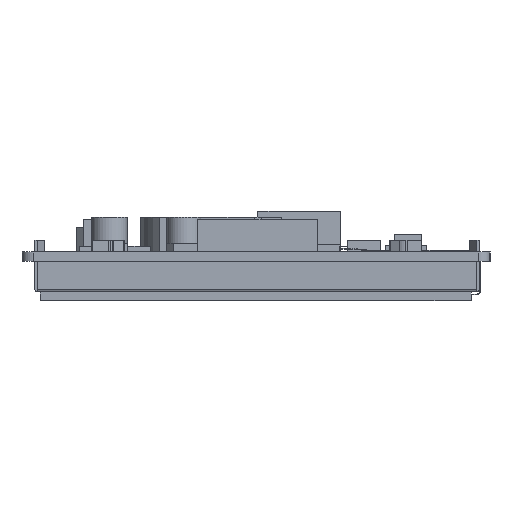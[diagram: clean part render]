
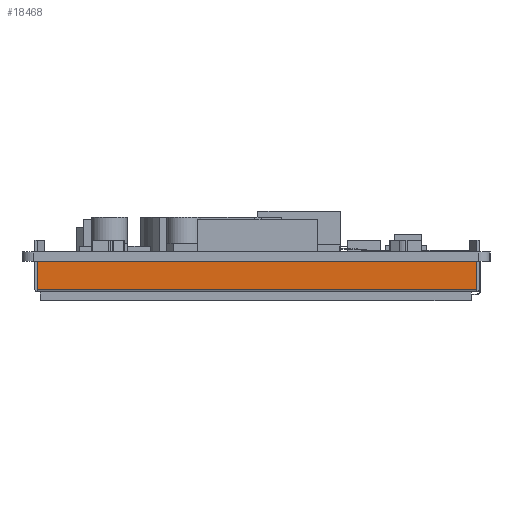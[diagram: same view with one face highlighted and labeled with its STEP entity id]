
A CAD part, left-side view. The second image highlights one B-rep face of the part: STEP entity #18468.
In plain terms, the highlighted planar face has unit normal (-1, 0, 0).
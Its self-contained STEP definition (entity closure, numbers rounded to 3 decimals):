
#18468=ADVANCED_FACE('',(#22642),#20551,.F.);
#20551=PLANE('',#51574);
#22642=FACE_OUTER_BOUND('',#24807,.T.);
#24807=EDGE_LOOP('',(#32775,#32776,#32777,#32778));
#32775=ORIENTED_EDGE('',*,*,#40639,.F.);
#32776=ORIENTED_EDGE('',*,*,#40640,.T.);
#32777=ORIENTED_EDGE('',*,*,#40641,.T.);
#32778=ORIENTED_EDGE('',*,*,#40642,.T.);
#36423=VERTEX_POINT('',#69078);
#36424=VERTEX_POINT('',#69079);
#36425=VERTEX_POINT('',#69081);
#36426=VERTEX_POINT('',#69083);
#40639=EDGE_CURVE('',#36423,#36424,#44940,.T.);
#40640=EDGE_CURVE('',#36423,#36425,#44941,.T.);
#40641=EDGE_CURVE('',#36425,#36426,#44942,.T.);
#40642=EDGE_CURVE('',#36426,#36424,#44943,.T.);
#44940=LINE('',#69077,#49154);
#44941=LINE('',#69080,#49155);
#44942=LINE('',#69082,#49156);
#44943=LINE('',#69084,#49157);
#49154=VECTOR('',#59565,1.);
#49155=VECTOR('',#59566,1.);
#49156=VECTOR('',#59567,1.);
#49157=VECTOR('',#59568,1.);
#51574=AXIS2_PLACEMENT_3D('',#69085,#59569,#59570);
#59565=DIRECTION('',(0.,0.,1.));
#59566=DIRECTION('',(0.,-1.,0.));
#59567=DIRECTION('',(0.,0.,1.));
#59568=DIRECTION('',(0.,1.,0.));
#59569=DIRECTION('',(1.,0.,0.));
#59570=DIRECTION('',(0.,1.,0.));
#69077=CARTESIAN_POINT('',(59.66,54.82,-6.9));
#69078=CARTESIAN_POINT('',(59.66,54.82,-6.5));
#69079=CARTESIAN_POINT('',(59.66,54.82,-1.6));
#69080=CARTESIAN_POINT('',(59.66,-21.2,-6.5));
#69081=CARTESIAN_POINT('',(59.66,-21.2,-6.5));
#69082=CARTESIAN_POINT('',(59.66,-21.2,-6.9));
#69083=CARTESIAN_POINT('',(59.66,-21.2,-1.6));
#69084=CARTESIAN_POINT('',(59.66,-21.2,-1.6));
#69085=CARTESIAN_POINT('',(59.66,-21.2,-6.9));
